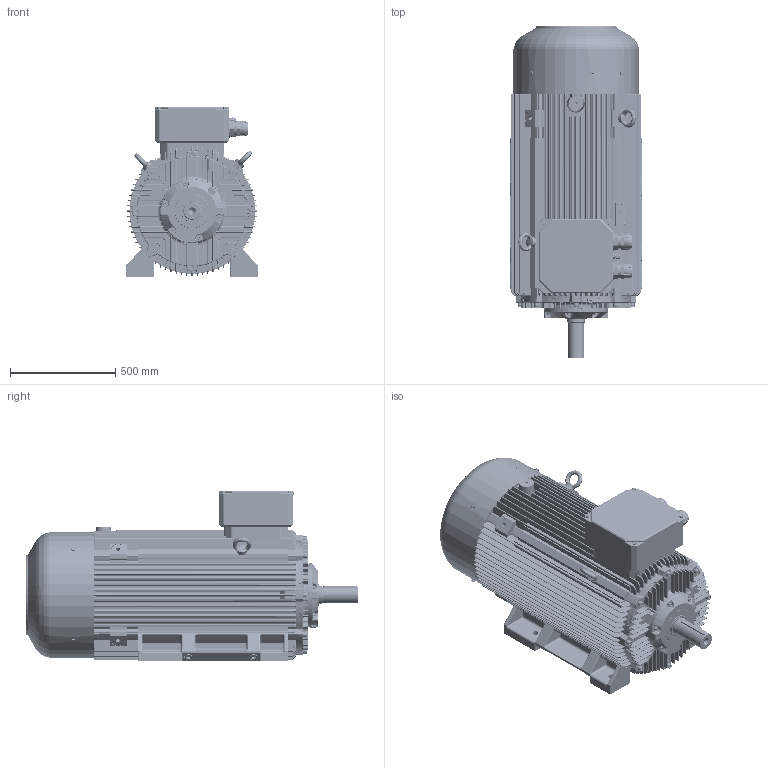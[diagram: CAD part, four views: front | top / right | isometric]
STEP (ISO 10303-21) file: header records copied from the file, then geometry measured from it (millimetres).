
FILE_DESCRIPTION(/* description */ ('Unknown'),/* implementation_level */ '2;1');
FILE_NAME(/* name */ '4SIE315L2C',/* time_stamp */ '2023-05-10T13:06:44+02:00',/* author */ ('Unknown'),/* organization */ ('Unknown'),/* preprocessor_version */ 'ST-DEVELOPER v16.7',/* originating_system */ 'DEX',/* authorisation */ $);
FILE_SCHEMA (('AUTOMOTIVE_DESIGN {1 0 10303 214 3 1 1}'));
Products named in the file (1): 4SIE315L2C
Bounding box: 631.24 x 1576.29 x 810.5 mm (x, y, z)
Volume: 325392890.5 mm3; surface area: 10863014.3 mm2
Topology: 8 solids, 47 shells, 9310 faces, 25606 edges, 16147 vertices
Faces by surface type: plane 5357, cylinder 1905, torus 742, bspline 614, cone 390, sphere 302
Full cylindrical faces by diameter (mm): 1.5 x3, 2.459 x7, 3.1 x4, 3.4 x4, 3.5 x2, 4 x1, 4.5 x1, 4.917 x4, 5 x2, 5.35 x2, 6.3 x2, 6.4 x2, 8 x4, 8.16 x8, 8.376 x6, 8.917 x2, 10 x18, 10.106 x12, 10.5 x4, 11 x12, 11.5 x2, 13.546 x9, 13.835 x4, 14 x5, 14.376 x21, 14.483 x1, 14.5 x4, 14.63 x8, 15 x1, 16 x23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
Entity records: 373241 total; most frequent: CARTESIAN_POINT 77413, ORIENTED_EDGE 48706, DIRECTION 44946, EDGE_CURVE 24353, VERTEX_POINT 15812, LINE 15786, VECTOR 15786, AXIS2_PLACEMENT_3D 14580
